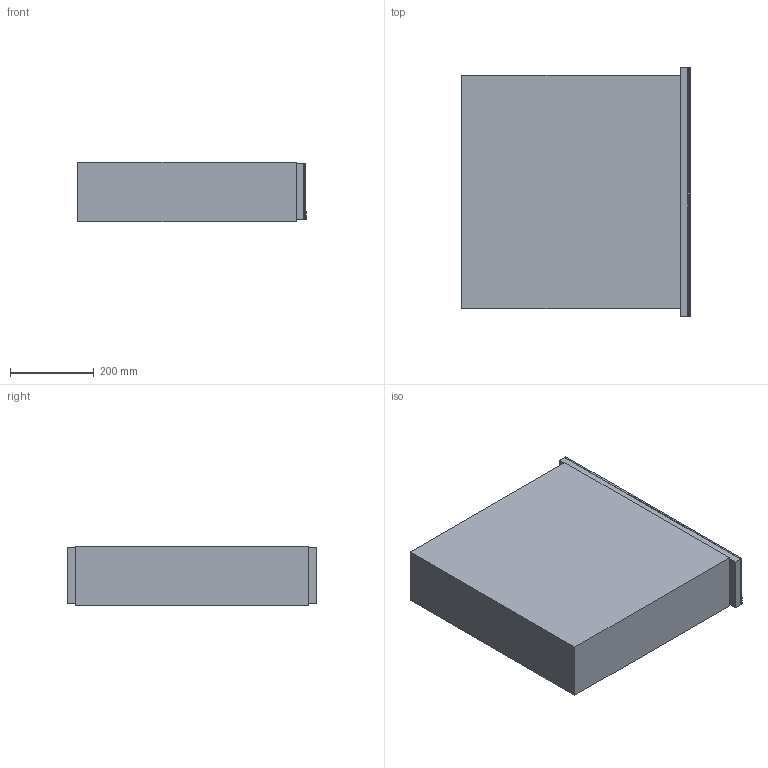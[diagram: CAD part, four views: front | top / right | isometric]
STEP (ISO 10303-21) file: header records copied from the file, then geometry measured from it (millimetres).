
FILE_DESCRIPTION(/* description */ (''),/* implementation_level */ '2;1');
FILE_NAME(/* name */ 'esw6214_clst',/* time_stamp */ '2013-03-10T17:51:00+01:00',/* author */ (''),/* organization */ (''),/* preprocessor_version */ 'ST-DEVELOPER v10',/* originating_system */ '',/* authorisation */ '');
FILE_SCHEMA (('AUTOMOTIVE_DESIGN_CC2'));
Length unit declared in the file: millimetre
Products named in the file (1): 1
Bounding box: 547.06 x 595.29 x 141.13 mm (x, y, z)
Volume: 42938756.5 mm3; surface area: 1268655.1 mm2
Topology: 4 solids, 4 shells, 28 faces, 56 edges, 36 vertices
Faces by surface type: bspline 28
Entity records: 757 total; most frequent: CARTESIAN_POINT 337, ORIENTED_EDGE 112, EDGE_CURVE 56, B_SPLINE_CURVE_WITH_KNOTS 48, VERTEX_POINT 36, ADVANCED_FACE 28, FACE_OUTER_BOUND 28, EDGE_LOOP 28
